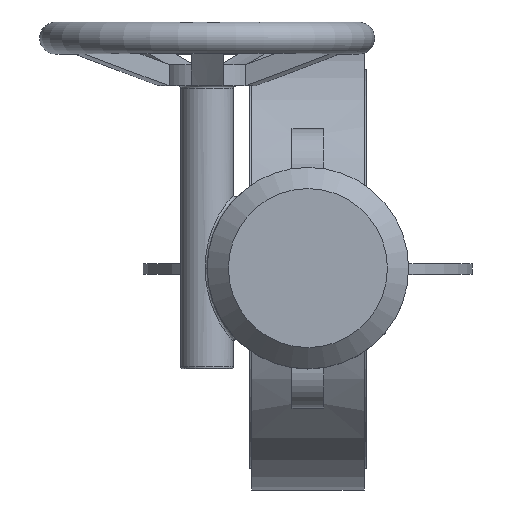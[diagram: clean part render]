
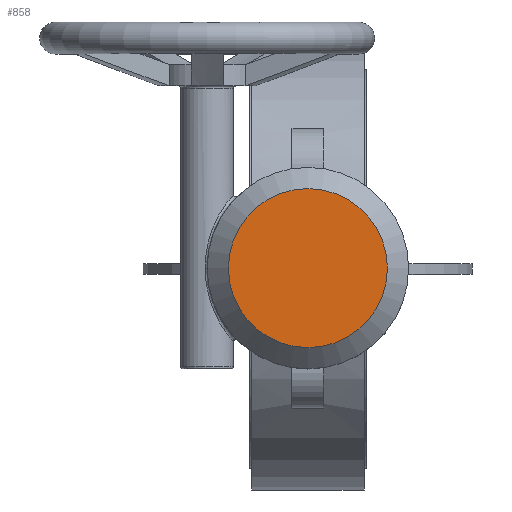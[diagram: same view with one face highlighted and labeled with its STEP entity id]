
A CAD part, top view. The second image highlights one B-rep face of the part: STEP entity #858.
In plain terms, the highlighted planar face has unit normal (0, 0, 1).
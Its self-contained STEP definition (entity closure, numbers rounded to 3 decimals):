
#858=ADVANCED_FACE('',(#2656),#2658,.T.);
#2656=FACE_BOUND('',#2657,.T.);
#2657=EDGE_LOOP('',(#3401));
#2658=PLANE('',#2659);
#2659=AXIS2_PLACEMENT_3D('',#2660,#2661,#2662);
#2660=CARTESIAN_POINT('',(0.,0.,249.));
#2661=DIRECTION('',(0.,0.,1.));
#2662=DIRECTION('',(-1.,0.,0.));
#3401=ORIENTED_EDGE('',*,*,#3809,.T.);
#3809=EDGE_CURVE('',#4243,#4243,#4244,.T.);
#4243=VERTEX_POINT('',#5980);
#4244=CIRCLE('',#5981,37.5);
#5980=CARTESIAN_POINT('',(-37.5,0.,249.));
#5981=AXIS2_PLACEMENT_3D('',#5982,#5983,#5984);
#5982=CARTESIAN_POINT('',(0.,0.,249.));
#5983=DIRECTION('',(0.,0.,1.));
#5984=DIRECTION('',(-1.,0.,0.));
